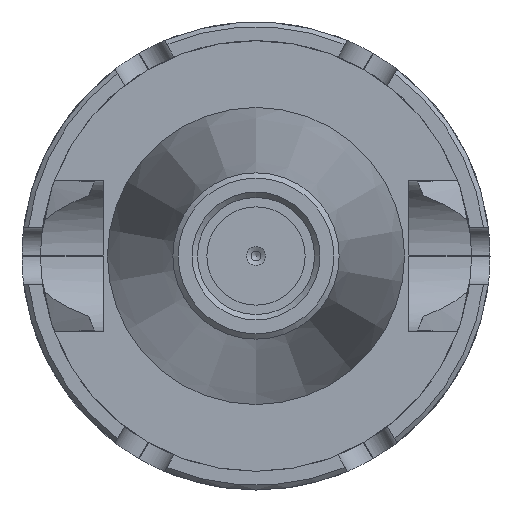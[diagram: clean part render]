
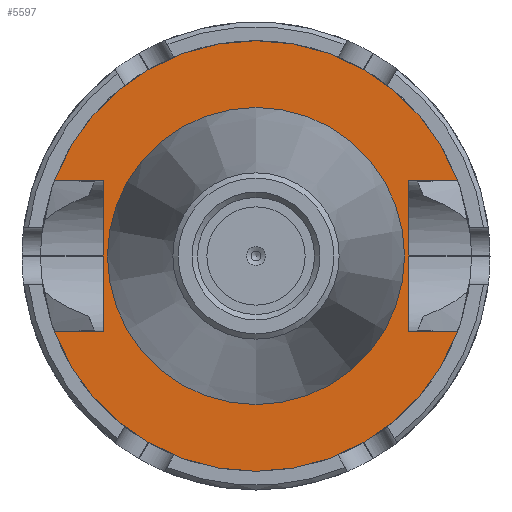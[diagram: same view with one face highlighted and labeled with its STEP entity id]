
A CAD part, front view. The second image highlights one B-rep face of the part: STEP entity #5597.
In plain terms, the highlighted planar face has unit normal (0, -1, 0).
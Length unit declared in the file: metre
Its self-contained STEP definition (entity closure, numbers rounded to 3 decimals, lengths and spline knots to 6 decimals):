
#691=LINE('',#10320,#1067);
#693=LINE('',#10324,#1069);
#695=LINE('',#10328,#1071);
#697=LINE('',#10377,#1073);
#698=LINE('',#10379,#1074);
#699=LINE('',#10381,#1075);
#1067=VECTOR('',#7725,1.);
#1069=VECTOR('',#7729,1.);
#1071=VECTOR('',#7733,1.);
#1073=VECTOR('',#7761,1.);
#1074=VECTOR('',#7762,1.);
#1075=VECTOR('',#7763,1.);
#1243=PLANE('',#6308);
#2777=ORIENTED_EDGE('',*,*,#3629,.F.);
#2778=ORIENTED_EDGE('',*,*,#3621,.T.);
#2779=ORIENTED_EDGE('',*,*,#3613,.T.);
#2780=ORIENTED_EDGE('',*,*,#3615,.T.);
#2781=ORIENTED_EDGE('',*,*,#3611,.F.);
#2782=ORIENTED_EDGE('',*,*,#3592,.T.);
#2783=ORIENTED_EDGE('',*,*,#3630,.T.);
#2784=ORIENTED_EDGE('',*,*,#3631,.T.);
#2785=ORIENTED_EDGE('',*,*,#3632,.F.);
#3592=EDGE_CURVE('',#4171,#4172,#4447,.T.);
#3611=EDGE_CURVE('',#4171,#4185,#691,.T.);
#3613=EDGE_CURVE('',#4187,#4186,#693,.T.);
#3615=EDGE_CURVE('',#4186,#4185,#695,.T.);
#3621=EDGE_CURVE('',#4192,#4187,#4455,.T.);
#3629=EDGE_CURVE('',#4196,#4196,#4458,.T.);
#3630=EDGE_CURVE('',#4172,#4197,#697,.T.);
#3631=EDGE_CURVE('',#4197,#4198,#698,.T.);
#3632=EDGE_CURVE('',#4192,#4198,#699,.T.);
#4171=VERTEX_POINT('',#10264);
#4172=VERTEX_POINT('',#10265);
#4185=VERTEX_POINT('',#10315);
#4186=VERTEX_POINT('',#10323);
#4187=VERTEX_POINT('',#10325);
#4192=VERTEX_POINT('',#10347);
#4196=VERTEX_POINT('',#10376);
#4197=VERTEX_POINT('',#10378);
#4198=VERTEX_POINT('',#10380);
#4447=CIRCLE('',#6286,0.023);
#4455=CIRCLE('',#6302,0.023);
#4458=CIRCLE('',#6309,0.015625);
#4814=EDGE_LOOP('',(#2777));
#4815=EDGE_LOOP('',(#2778,#2779,#2780,#2781,#2782,#2783,#2784,#2785));
#5199=FACE_BOUND('',#4814,.T.);
#5200=FACE_BOUND('',#4815,.T.);
#5597=ADVANCED_FACE('',(#5199,#5200),#1243,.T.);
#6286=AXIS2_PLACEMENT_3D('',#10263,#7699,#7700);
#6302=AXIS2_PLACEMENT_3D('',#10346,#7744,#7745);
#6308=AXIS2_PLACEMENT_3D('',#10374,#7757,#7758);
#6309=AXIS2_PLACEMENT_3D('',#10375,#7759,#7760);
#7699=DIRECTION('',(0.,-1.,0.));
#7700=DIRECTION('',(0.,0.,-1.));
#7725=DIRECTION('',(1.,0.,0.));
#7729=DIRECTION('',(1.,0.,0.));
#7733=DIRECTION('',(0.,0.,-1.));
#7744=DIRECTION('',(0.,-1.,0.));
#7745=DIRECTION('',(0.,0.,-1.));
#7757=DIRECTION('',(0.,-1.,0.));
#7758=DIRECTION('',(1.,0.,0.));
#7759=DIRECTION('',(0.,-1.,0.));
#7760=DIRECTION('',(0.,0.,-1.));
#7761=DIRECTION('',(-1.,0.,0.));
#7762=DIRECTION('',(0.,0.,1.));
#7763=DIRECTION('',(-1.,0.,0.));
#10263=CARTESIAN_POINT('',(0.,0.,0.));
#10264=CARTESIAN_POINT('',(-0.021545,0.,-0.00805));
#10265=CARTESIAN_POINT('',(0.021545,0.,-0.00805));
#10315=CARTESIAN_POINT('',(-0.0163,0.,-0.00805));
#10320=CARTESIAN_POINT('',(0.,0.,-0.00805));
#10323=CARTESIAN_POINT('',(-0.0163,0.,0.00805));
#10324=CARTESIAN_POINT('',(0.,0.,0.00805));
#10325=CARTESIAN_POINT('',(-0.021545,0.,0.00805));
#10328=CARTESIAN_POINT('',(-0.0163,0.,0.));
#10346=CARTESIAN_POINT('',(0.,0.,0.));
#10347=CARTESIAN_POINT('',(0.021545,0.,0.00805));
#10374=CARTESIAN_POINT('',(0.,0.,0.));
#10375=CARTESIAN_POINT('',(0.,0.,0.));
#10376=CARTESIAN_POINT('',(0.,0.,-0.015625));
#10377=CARTESIAN_POINT('',(0.,0.,-0.00805));
#10378=CARTESIAN_POINT('',(0.0163,0.,-0.00805));
#10379=CARTESIAN_POINT('',(0.0163,0.,0.));
#10380=CARTESIAN_POINT('',(0.0163,0.,0.00805));
#10381=CARTESIAN_POINT('',(0.,0.,0.00805));
